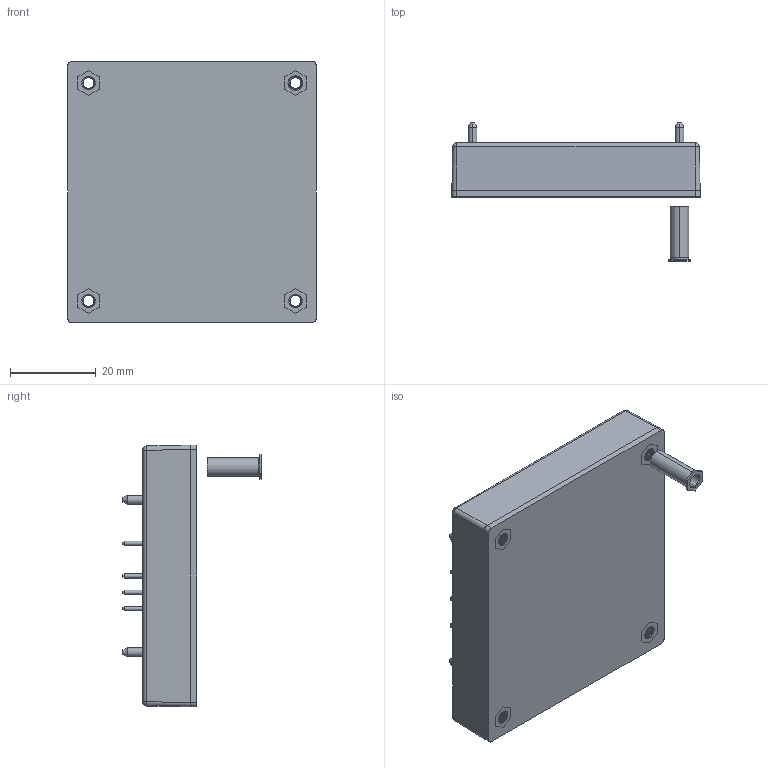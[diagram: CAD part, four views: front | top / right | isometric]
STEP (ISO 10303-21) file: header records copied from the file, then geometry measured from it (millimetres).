
FILE_DESCRIPTION (( 'STEP AP203' ), '1' );
FILE_NAME ('CHB200W12.STEP', '2020-07-10T03:23:35', ( '' ), ( '' ), 'SwSTEP 2.0', 'SolidWorks 2017', '' );
FILE_SCHEMA (( 'CONFIG_CONTROL_DESIGN' ));
Length unit declared in the file: millimetre
Products named in the file (24): CHB200W12 灌膠示意圖 2020.06.01; CHB200W10-72SXX G7211363629(M-C1248-01-P)ｶ鷄IN d1.5xd1.0x15.6mm; CHB200W10-72SXX G7211363639(M-C1249-01-P)ｶ鷄IN d2.8xd2.0x15.6mm; CHB200W12-72SXX 鋁板{銅柱無擋腳}(M-C1324-01-J)G6612720107,G6612730107; CHB200W12 CASE G511C110031 M-C1251-01-M; CHB200W12 BASE示意圖 2020.06.02; CHB200W12; CHB200W12-72SXX灌膠+PIN 2020.06.01
Assembly tree (17 placements, depth 3):
  CHB200W12 灌膠示意圖 2020.06.01
  CHB200W10-72SXX G7211363629(M-C1248-01-P)ｶ鷄IN d1.5xd1.0x15.6mm
  CHB200W10-72SXX G7211363629(M-C1248-01-P)ｶ鷄IN d1.5xd1.0x15.6mm
  CHB200W10-72SXX G7211363639(M-C1249-01-P)ｶ鷄IN d2.8xd2.0x15.6mm
  CHB200W10-72SXX G7211363629(M-C1248-01-P)ｶ鷄IN d1.5xd1.0x15.6mm
Bounding box: 57.9 x 32.2 x 61 mm (x, y, z)
Volume: 43048.7 mm3; surface area: 31957.8 mm2
Topology: 20 solids, 20 shells, 1270 faces, 3305 edges, 2169 vertices
Faces by surface type: plane 547, cylinder 387, bspline 200, cone 110, torus 22, sphere 4
Entity records: 58106 total; most frequent: CARTESIAN_POINT 29462, ORIENTED_EDGE 6132, DIRECTION 4462, EDGE_CURVE 3066, VERTEX_POINT 2023, LINE 1838, VECTOR 1838, AXIS2_PLACEMENT_3D 1312
